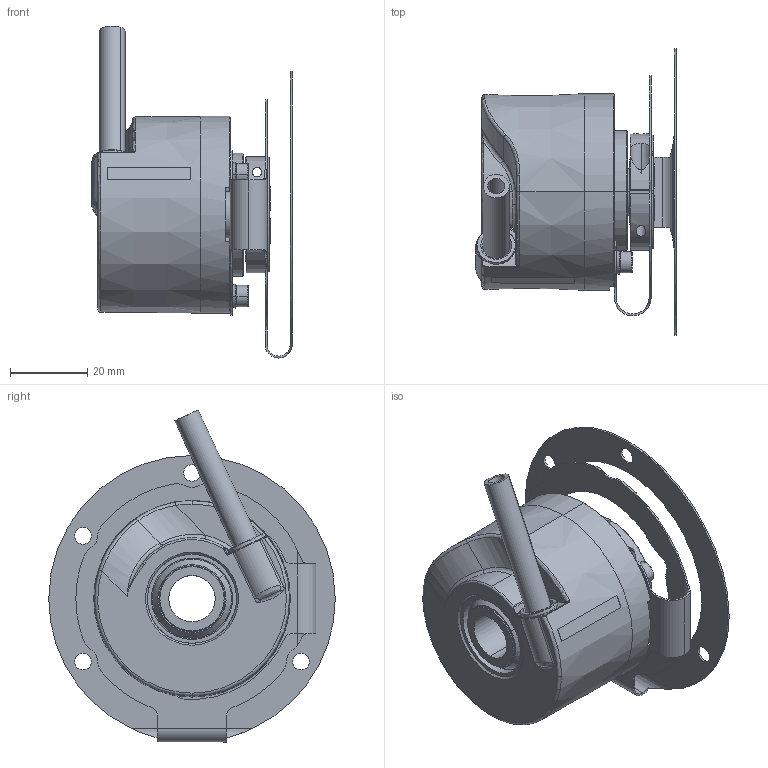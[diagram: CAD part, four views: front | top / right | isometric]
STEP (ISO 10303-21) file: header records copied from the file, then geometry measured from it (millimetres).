
FILE_DESCRIPTION (( 'STEP AP214' ), '1' );
FILE_NAME ('8.5020.85XE.XXXX.STEP', '2011-01-10T07:56:16', ( 'admin' ), ( 'Fritz Kübler GmbH' ), 'SwSTEP 2.0', 'SolidWorks 2009', '' );
FILE_SCHEMA (( 'AUTOMOTIVE_DESIGN' ));
Length unit declared in the file: millimetre
Products named in the file (1): 8.5020.85XE.XXXX
Bounding box: 51.8 x 74 x 85.74 mm (x, y, z)
Surface area: 25584.2 mm2 (no closed solid volume)
Topology: 0 solids, 16 shells, 271 faces, 821 edges, 544 vertices
Faces by surface type: cylinder 125, plane 65, cone 45, torus 19, bspline 17
Entity records: 14904 total; most frequent: CARTESIAN_POINT 4595, DIRECTION 1593, ORIENTED_EDGE 1414, EDGE_CURVE 811, AXIS2_PLACEMENT_3D 646, VERTEX_POINT 544, CIRCLE 391, EDGE_LOOP 312
